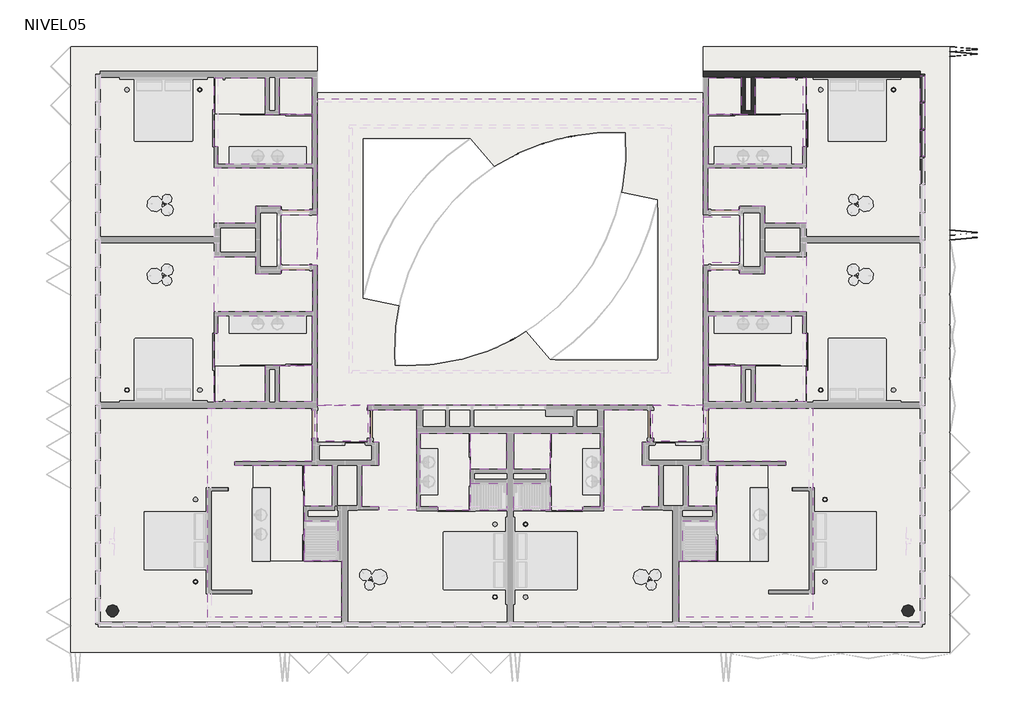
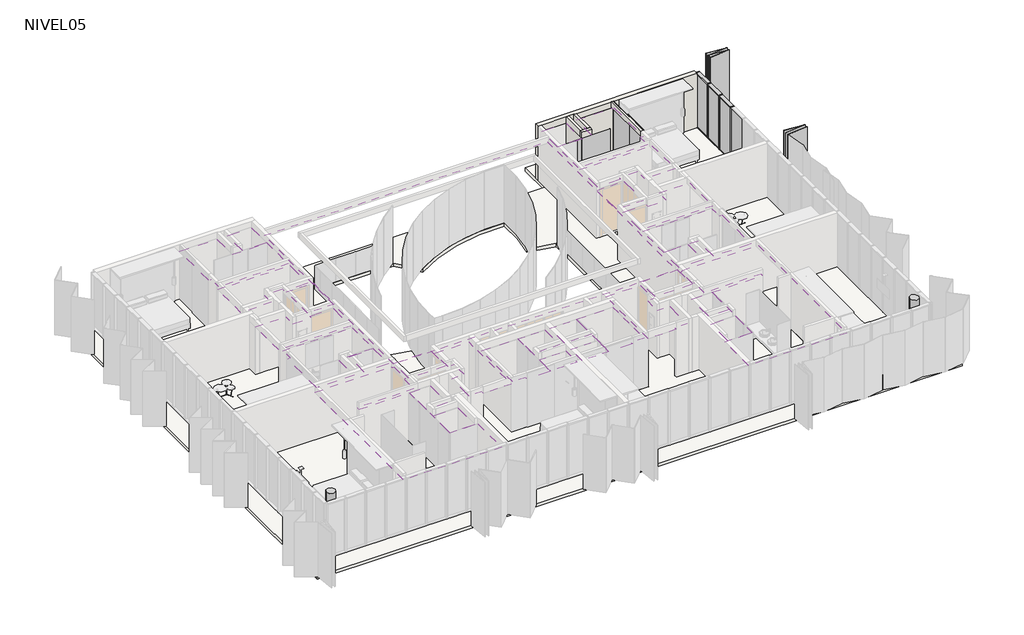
# One storey, part 7 of 8: 31 coverings, 17 slabs, 11 members, 8 plates, 8 walls, 6 beams, 2 columns.
"""IFC4 building model written with IfcOpenShell, lengths in millimetres."""

from ifc_helpers import new_model, si_unit, point, frame, frame_2d, origin, place, context, project, spatial, polyline, circle_curve, trimmed, segment, composite_curve, outline, extrude, faceted_brep, transform, mapped, element, save
from components import m_round_column_d_400_5789d155, m_round_column_d_400_e30c7a5e, rectangular_mullion_50_x_150mm_8dc60d6a, rectangular_mullion_50_x_150mm_324a6438, rectangular_mullion_50_x_150mm_33c2bde1, rectangular_mullion_50_x_150mm_da4cfd0d, folding_hd_folding_hd_85_1d048bdd, panel_corredera_cr_panel_corredera_0b5135b5, system_panel_cr_shower_c0953742, system_panel_cr_shower_d0c7b907, system_panel_glazed_6ccc6dc1, system_panel_glazed_38744f95

model = new_model("IFC4")

# Units and contexts
model_context = context("Model", 3, world=origin())
ifc_project = project(units=[si_unit("LENGTHUNIT", "METRE", prefix="MILLI")], contexts=[model_context])

# Site, building, storey
site = spatial("IfcSite", under=ifc_project)
building = spatial("IfcBuilding", under=site)
storey = spatial("IfcBuildingStorey", under=building, Name="NIVEL05", Elevation=10660.0)

# Beams
placement = place(None, origin())
element("IfcBeam", 1, ObjectType="H-A- VIGAS RECTANGULARES : V. 40/30", at=placement, inside=storey, context=model_context, shape_type="Brep", body=[
    faceted_brep([(5611.4065252, -7185.2015033, 10640.0), (5611.4065252, -7185.2015033, 10340.0), (6011.4065252, -7185.2015033, 10340.0), (6011.4065252, -7185.2015033, 10640.0), (6011.4065252, -166.0860759, 10640.0), (5611.4065252, -166.0860759, 10640.0), (5611.4065252, -6785.2015033, 10640.0), (6011.4065252, -166.0860759, 10340.0), (5611.4065252, -6785.2015033, 10340.0), (5611.4065252, -166.0860759, 10340.0)], [[[0, 1, 2, 3]], [[3, 4, 5, 6, 0]], [[2, 7, 4, 3]], [[1, 8, 9, 7, 2]], [[0, 6, 5, 9, 8, 1]], [[5, 4, 7, 9]]]),
])
element("IfcBeam", 2, ObjectType="H-A- VIGAS RECTANGULARES : V. 40/30", at=placement, inside=storey, context=model_context, shape_type="SweptSolid", body=[
    extrude(outline(polyline([(-1773.5934748, -7185.2015033), (-1773.5934748, -6785.2015033), (5611.4065252, -6785.2015033), (5611.4065252, -7185.2015033), (-1773.5934748, -7185.2015033)])), frame((0.0, 0.0, 10340.0), z_axis=(0.0, 0.0, 1.0), x_axis=(1.0, 0.0, 0.0)), (0.0, 0.0, 1.0), 300.0),
])
element("IfcBeam", 3, ObjectType="H-A- VIGAS RECTANGULARES : V. 40/30", at=placement, inside=storey, context=model_context, shape_type="Brep", body=[
    faceted_brep([(-19978.5934748, -7185.2015033, 10640.0), (-20378.5934748, -7185.2015033, 10640.0), (-20378.5934748, -7185.2015033, 10340.0), (-19978.5934748, -7185.2015033, 10340.0), (-19978.5934748, -6785.2015033, 10640.0), (-19978.5934748, -166.0860759, 10640.0), (-20378.5934748, -166.0860759, 10640.0), (-20378.5934748, -166.0860759, 10340.0), (-19978.5934748, -166.0860759, 10340.0), (-19978.5934748, -6785.2015033, 10340.0)], [[[0, 1, 2, 3]], [[1, 0, 4, 5, 6]], [[2, 1, 6, 7]], [[3, 2, 7, 8, 9]], [[0, 3, 9, 8, 5, 4]], [[5, 8, 7, 6]]]),
])
element("IfcBeam", 4, ObjectType="H-A- VIGAS RECTANGULARES : V. 40/30", at=placement, inside=storey, context=model_context, shape_type="SweptSolid", body=[
    extrude(outline(polyline([(-12593.5934748, -6785.2015033), (-12593.5934748, -7185.2015033), (-19978.5934748, -7185.2015033), (-19978.5934748, -6785.2015033), (-12593.5934748, -6785.2015033)])), frame((0.0, 0.0, 10340.0), z_axis=(0.0, 0.0, 1.0), x_axis=(1.0, 0.0, 0.0)), (0.0, 0.0, 1.0), 300.0),
])
element("IfcBeam", 5, ObjectType="H-A- VIGAS RECTANGULARES : V. 40/30", at=placement, inside=storey, context=model_context, shape_type="SweptSolid", body=[
    extrude(outline(polyline([(-1773.5934748, -7185.2015033), (-7283.5934748, -7185.2015033), (-7283.5934748, -6785.2015033), (-1773.5934748, -6785.2015033), (-1773.5934748, -7185.2015033)])), frame((0.0, 0.0, 10340.0), z_axis=(0.0, 0.0, 1.0), x_axis=(1.0, 0.0, 0.0)), (0.0, 0.0, 1.0), 300.0),
])
element("IfcBeam", 6, ObjectType="H-A- VIGAS RECTANGULARES : V. 40/30", at=placement, inside=storey, context=model_context, shape_type="SweptSolid", body=[
    extrude(outline(polyline([(-12593.5934748, -7185.2015033), (-12593.5934748, -6785.2015033), (-7283.5934748, -6785.2015033), (-7283.5934748, -7185.2015033), (-12593.5934748, -7185.2015033)])), frame((0.0, 0.0, 10340.0), z_axis=(0.0, 0.0, 1.0), x_axis=(1.0, 0.0, 0.0)), (0.0, 0.0, 1.0), 300.0),
])

# Columns
m_round_column_d_400_shape = m_round_column_d_400_5789d155(model_context)
element("IfcColumn", 7, ObjectType="M_Round Column : D-400", at=placement, inside=storey, context=model_context, shape_type="MappedRepresentation", body=[
    mapped(m_round_column_d_400_shape, transform((5797.2643895, -6971.0593676, 0.0), x_axis=(-1.0, 0.0, 0.0), y_axis=(0.0, -1.0, 0.0), z_axis=(0.0, 0.0, 1.0))),
])
m_round_column_d_400_2_shape = m_round_column_d_400_e30c7a5e(model_context)
element("IfcColumn", 8, ObjectType="M_Round Column : D-400", at=placement, inside=storey, context=model_context, shape_type="MappedRepresentation", body=[
    mapped(m_round_column_d_400_2_shape, transform((-20164.4513392, -6971.0593676, 0.0), x_axis=(1.0, 0.0, 0.0), y_axis=(0.0, 1.0, 0.0), z_axis=(0.0, 0.0, 1.0))),
])

# Coverings
element("IfcCovering", 9, ObjectType="CI_VOLCANITA-ST", at=placement, inside=storey, context=model_context, shape_type="SweptSolid", body=[
    extrude(outline(polyline([(-16848.5934748, 10423.9139241), (-15183.5934748, 10423.9139241), (-15183.5934748, 9233.9139241), (-13643.5934748, 9233.9139241), (-13643.5934748, 7603.9139241), (-16728.5934748, 7603.9139241), (-16728.5934748, 8173.9139241), (-16848.5934748, 8173.9139241), (-16848.5934748, 10423.9139241)])), frame((0.0, 0.0, 12910.0), z_axis=(0.0, 0.0, 1.0), x_axis=(1.0, 0.0, 0.0)), (0.0, 0.0, 1.0), 55.0),
])
element("IfcCovering", 10, ObjectType="CI_VOLCANITA-RH", at=placement, inside=storey, context=model_context, shape_type="SweptSolid", body=[
    extrude(outline(polyline([(-14723.5934748, 10423.9139241), (-13643.5934748, 10423.9139241), (-13643.5934748, 9233.9139241), (-14723.5934748, 9233.9139241), (-14723.5934748, 10423.9139241)])), frame((0.0, 0.0, 12910.0), z_axis=(0.0, 0.0, 1.0), x_axis=(1.0, 0.0, 0.0)), (0.0, 0.0, 1.0), 55.0),
])
element("IfcCovering", 11, ObjectType="CI_VOLCANITA-ST", at=placement, inside=storey, context=model_context, shape_type="SweptSolid", body=[
    extrude(outline(polyline([(2686.4065252, -7185.2015033), (-1683.5934748, -7185.2015033), (-1683.5934748, -5336.0862189), (-453.5934748, -5336.0862189), (-453.5934748, -2216.0860759), (1806.4065252, -2216.0860759), (1806.4065252, -2098.0860759), (-723.5934748, -2098.0860759), (-723.5934748, -1341.0860759), (-798.5934748, -1341.0860759), (-798.5934748, -426.0860759), (-723.5934748, -426.0860759), (-723.5934748, -366.0860759), (2686.4065252, -366.0860759), (2686.4065252, -7185.2015033)])), frame((0.0, 0.0, 12910.0), z_axis=(0.0, 0.0, 1.0), x_axis=(1.0, 0.0, 0.0)), (0.0, 0.0, 1.0), 55.0),
])
element("IfcCovering", 12, ObjectType="CI_VOLCANITA-RH", at=placement, inside=storey, context=model_context, shape_type="SweptSolid", body=[
    extrude(outline(polyline([(-1373.5934748, -3556.0862189), (-1373.5934748, -2226.0860759), (-453.5434748, -2226.0860759), (-453.5434748, -3556.0862189), (-1373.5934748, -3556.0862189)])), frame((0.0, 0.0, 12910.0), z_axis=(0.0, 0.0, 1.0), x_axis=(1.0, 0.0, 0.0)), (0.0, 0.0, 1.0), 55.0),
])
element("IfcCovering", 13, ObjectType="CI_VOLCANITA-RH", at=placement, inside=storey, context=model_context, shape_type="SweptSolid", body=[
    extrude(outline(polyline([(-1553.5934748, -4036.0862189), (-453.5434748, -4036.0862189), (-453.5434748, -5336.1362189), (-1553.5934748, -5336.1362189), (-1553.5934748, -4036.0862189)])), frame((0.0, 0.0, 12910.0), z_axis=(0.0, 0.0, 1.0), x_axis=(1.0, 0.0, 0.0)), (0.0, 0.0, 1.0), 55.0),
])
element("IfcCovering", 14, ObjectType="CI_VOLCANITA-ST", at=placement, inside=storey, context=model_context, shape_type="SweptSolid", body=[
    extrude(outline(polyline([(-17053.5934748, -7185.2015033), (-17053.5934748, -366.0860759), (-13643.5934748, -366.0860759), (-13643.5934748, -426.0860759), (-13568.5934748, -426.0860759), (-13568.5934748, -1341.0860759), (-13643.5934748, -1341.0860759), (-13643.5934748, -2098.0860759), (-16173.5934748, -2098.0860759), (-16173.5934748, -2216.0860759), (-13913.5934748, -2216.0860759), (-13913.5934748, -5336.0862189), (-12683.5934748, -5336.0862189), (-12683.5934748, -7185.2015033), (-17053.5934748, -7185.2015033)])), frame((0.0, 0.0, 12910.0), z_axis=(0.0, 0.0, 1.0), x_axis=(1.0, 0.0, 0.0)), (0.0, 0.0, 1.0), 55.0),
])
element("IfcCovering", 15, ObjectType="CI_VOLCANITA-RH", at=placement, inside=storey, context=model_context, shape_type="SweptSolid", body=[
    extrude(outline(polyline([(-12993.5934748, -3556.0862189), (-13913.6434748, -3556.0862189), (-13913.6434748, -2226.0860759), (-12993.5934748, -2226.0860759), (-12993.5934748, -3556.0862189)])), frame((0.0, 0.0, 12910.0), z_axis=(0.0, 0.0, 1.0), x_axis=(1.0, 0.0, 0.0)), (0.0, 0.0, 1.0), 55.0),
])
element("IfcCovering", 16, ObjectType="CI_VOLCANITA-RH", at=placement, inside=storey, context=model_context, shape_type="SweptSolid", body=[
    extrude(outline(polyline([(-12813.5934748, -4036.0862189), (-12813.5934748, -5336.1362189), (-13913.6434748, -5336.1362189), (-13913.6434748, -4036.0862189), (-12813.5934748, -4036.0862189)])), frame((0.0, 0.0, 12910.0), z_axis=(0.0, 0.0, 1.0), x_axis=(1.0, 0.0, 0.0)), (0.0, 0.0, 1.0), 55.0),
])
element("IfcCovering", 17, ObjectType="CI_VOLCANITA-ST", at=placement, inside=storey, context=model_context, shape_type="SweptSolid", body=[
    extrude(outline(polyline([(-5883.5921504, -1176.0860759), (-4253.5934748, -1176.0860759), (-4253.5934748, -3586.0862189), (-4823.5934748, -3586.0862189), (-4823.5934748, -3686.0862189), (-5883.5921504, -3686.0862189), (-5883.5921504, -1176.0860759)])), frame((0.0, 0.0, 12910.0), z_axis=(0.0, 0.0, 1.0), x_axis=(1.0, 0.0, 0.0)), (0.0, 0.0, 1.0), 55.0),
])
element("IfcCovering", 18, ObjectType="CI_VOLCANITA-RH", at=placement, inside=storey, context=model_context, shape_type="SweptSolid", body=[
    extrude(outline(polyline([(-5883.5921504, -2346.0860759), (-7073.5934748, -2346.0860759), (-7073.5934748, -1176.0860759), (-5883.5921504, -1176.0860759), (-5883.5921504, -2346.0860759)])), frame((0.0, 0.0, 12910.0), z_axis=(0.0, 0.0, 1.0), x_axis=(1.0, 0.0, 0.0)), (0.0, 0.0, 1.0), 55.0),
])
element("IfcCovering", 19, ObjectType="CI_VOLCANITA-RH", at=placement, inside=storey, context=model_context, shape_type="SweptSolid", body=[
    extrude(outline(polyline([(-7073.5934748, -3686.0862189), (-7073.5934748, -2806.0860759), (-5883.5921504, -2806.0860759), (-5883.5921504, -3686.0862189), (-7073.5934748, -3686.0862189)])), frame((0.0, 0.0, 12910.0), z_axis=(0.0, 0.0, 1.0), x_axis=(1.0, 0.0, 0.0)), (0.0, 0.0, 1.0), 55.0),
])
element("IfcCovering", 20, ObjectType="CI_VOLCANITA-ST", at=placement, inside=storey, context=model_context, shape_type="SweptSolid", body=[
    extrude(outline(polyline([(-8483.5947993, -1176.0860759), (-8483.5947993, -3686.0862189), (-9543.5934748, -3686.0862189), (-9543.5934748, -3586.0862189), (-10113.5934748, -3586.0862189), (-10113.5934748, -1176.0860759), (-8483.5947993, -1176.0860759)])), frame((0.0, 0.0, 12910.0), z_axis=(0.0, 0.0, 1.0), x_axis=(1.0, 0.0, 0.0)), (0.0, 0.0, 1.0), 55.0),
])
element("IfcCovering", 21, ObjectType="CI_VOLCANITA-RH", at=placement, inside=storey, context=model_context, shape_type="SweptSolid", body=[
    extrude(outline(polyline([(-8483.5947993, -2346.0860759), (-8483.5947993, -1176.0860759), (-7293.5934748, -1176.0860759), (-7293.5934748, -2346.0860759), (-8483.5947993, -2346.0860759)])), frame((0.0, 0.0, 12910.0), z_axis=(0.0, 0.0, 1.0), x_axis=(1.0, 0.0, 0.0)), (0.0, 0.0, 1.0), 55.0),
])
element("IfcCovering", 22, ObjectType="CI_VOLCANITA-RH", at=placement, inside=storey, context=model_context, shape_type="Brep", body=[
    faceted_brep([(-7293.5934748, -3686.0862189, 12965.0), (-7293.5934748, -3566.0862189, 12965.0), (-7293.5934748, -2806.0860759, 12965.0), (-8483.5947993, -2806.0860759, 12965.0), (-8483.5947993, -3566.0862189, 12965.0), (-8483.5947993, -3686.0862189, 12965.0), (-7293.5934748, -3686.0862189, 12910.0), (-8483.5947993, -3686.0862189, 12910.0), (-8483.5947993, -3566.0862189, 12910.0), (-8483.5947993, -2806.0860759, 12910.0), (-7293.5934748, -2806.0860759, 12910.0), (-7293.5934748, -3566.0862189, 12910.0)], [[[0, 1, 2, 3, 4, 5]], [[6, 7, 8, 9, 10, 11]], [[2, 1, 0, 6, 11, 10]], [[3, 2, 10, 9]], [[5, 4, 3, 9, 8, 7]], [[0, 5, 7, 6]]]),
])
element("IfcCovering", 23, ObjectType="CI_VOLCANITA-ST", at=placement, inside=storey, context=model_context, shape_type="SweptSolid", body=[
    extrude(outline(polyline([(-13483.5934748, 9733.9139241), (-883.5934748, 9733.9139241), (-883.5934748, -266.0860759), (-13483.5934748, -266.0860759), (-13483.5934748, 9733.9139241)]), holes=[polyline([(-12333.5934748, 8783.9139241), (-12333.5934748, 883.9139241), (-2033.5934748, 883.9139241), (-2033.5934748, 8783.9139241), (-12333.5934748, 8783.9139241)])]), frame((0.0, 0.0, 12910.0), z_axis=(0.0, 0.0, 1.0), x_axis=(1.0, 0.0, 0.0)), (0.0, 0.0, 1.0), 55.0),
])
element("IfcCovering", 24, ObjectType="CI_HUNTER DOUGLAS", at=placement, inside=storey, context=model_context, shape_type="SweptSolid", body=[
    extrude(outline(polyline([(306.4065252, 5883.9139241), (306.4065252, 4383.9139241), (-883.5934748, 4383.9139241), (-883.5934748, 5883.9139241), (306.4065252, 5883.9139241)])), frame((0.0, 0.0, 12960.0), z_axis=(0.0, 0.0, 1.0), x_axis=(1.0, 0.0, 0.0)), (0.0, 0.0, 1.0), 55.0),
])
element("IfcCovering", 25, ObjectType="CI_HUNTER DOUGLAS", at=placement, inside=storey, context=model_context, shape_type="SweptSolid", body=[
    extrude(outline(polyline([(-883.5934748, -266.0860759), (-883.5934748, -1438.0860759), (-2533.5934748, -1438.0860759), (-2533.5934748, -266.0860759), (-883.5934748, -266.0860759)])), frame((0.0, 0.0, 12960.0), z_axis=(0.0, 0.0, 1.0), x_axis=(1.0, 0.0, 0.0)), (0.0, 0.0, 1.0), 55.0),
])
element("IfcCovering", 26, ObjectType="CI_HUNTER DOUGLAS", at=placement, inside=storey, context=model_context, shape_type="SweptSolid", body=[
    extrude(outline(polyline([(-14673.5934748, 5958.9139241), (-13483.5934748, 5958.9139241), (-13483.5934748, 4308.9139241), (-14673.5934748, 4308.9139241), (-14673.5934748, 5958.9139241)])), frame((0.0, 0.0, 12960.0), z_axis=(0.0, 0.0, 1.0), x_axis=(1.0, 0.0, 0.0)), (0.0, 0.0, 1.0), 55.0),
])
element("IfcCovering", 27, ObjectType="CI_HUNTER DOUGLAS", at=placement, inside=storey, context=model_context, shape_type="SweptSolid", body=[
    extrude(outline(polyline([(-11833.5934748, -266.0860759), (-11833.5934748, -1438.0860759), (-13483.5934748, -1438.0860759), (-13483.5934748, -266.0860759), (-11833.5934748, -266.0860759)])), frame((0.0, 0.0, 12960.0), z_axis=(0.0, 0.0, 1.0), x_axis=(1.0, 0.0, 0.0)), (0.0, 0.0, 1.0), 55.0),
])
element("IfcCovering", 28, ObjectType="CI_VOLCANITA-ST", at=placement, inside=storey, context=model_context, shape_type="SweptSolid", body=[
    extrude(outline(polyline([(-16848.5934748, 5683.9139241), (-16848.5934748, 7483.9139241), (-13633.5934748, 7483.9139241), (-13633.5934748, 6108.9139241), (-14673.5934748, 6108.9139241), (-14673.5934748, 6233.9139241), (-15493.5934748, 6233.9139241), (-15493.5934748, 5683.9139241), (-16848.5934748, 5683.9139241)])), frame((0.0, 0.0, 12910.0), z_axis=(0.0, 0.0, 1.0), x_axis=(1.0, 0.0, 0.0)), (0.0, 0.0, 1.0), 55.0),
])
element("IfcCovering", 29, ObjectType="CI_VOLCANITA-ST", at=placement, inside=storey, context=model_context, shape_type="SweptSolid", body=[
    extrude(outline(polyline([(-2608.5934748, -416.0860759), (-2608.5934748, -1466.0860759), (-2883.5934748, -1466.0860759), (-2883.5934748, -2216.0860759), (-2333.5934748, -2216.0860759), (-2333.5934748, -3571.0862189), (-2883.5934748, -3571.0862189), (-2883.5934748, -3686.0862189), (-4133.5934748, -3686.0862189), (-4133.5934748, -1066.0860759), (-4133.5934748, -416.0860759), (-2608.5934748, -416.0860759)])), frame((0.0, 0.0, 12910.0), z_axis=(0.0, 0.0, 1.0), x_axis=(1.0, 0.0, 0.0)), (0.0, 0.0, 1.0), 55.0),
])
element("IfcCovering", 30, ObjectType="CI_VOLCANITA-ST", at=placement, inside=storey, context=model_context, shape_type="SweptSolid", body=[
    extrude(outline(polyline([(-10233.5934748, -416.0860759), (-10233.5934748, -1066.0860759), (-10233.5934748, -3686.0862189), (-11483.5934748, -3686.0862189), (-11483.5934748, -3571.0862189), (-12033.5934748, -3571.0862189), (-12033.5934748, -2216.0860759), (-11483.5934748, -2216.0860759), (-11483.5934748, -1466.0860759), (-11758.5934748, -1466.0860759), (-11758.5934748, -416.0860759), (-10233.5934748, -416.0860759)])), frame((0.0, 0.0, 12910.0), z_axis=(0.0, 0.0, 1.0), x_axis=(1.0, 0.0, 0.0)), (0.0, 0.0, 1.0), 55.0),
])
element("IfcCovering", 31, ObjectType="CI_VOLCANITA-ST", at=placement, inside=storey, context=model_context, shape_type="Brep", body=[
    faceted_brep([(2481.4065252, 10423.9139241, 12965.0), (2371.4065252, 10423.9139241, 12965.0), (816.4065252, 10423.9139241, 12965.0), (816.4065252, 9233.9139241, 12965.0), (-723.5934748, 9233.9139241, 12965.0), (-723.5934748, 7603.9139241, 12965.0), (2361.4065252, 7603.9139241, 12965.0), (2361.4065252, 8173.9139241, 12965.0), (2371.4065252, 8173.9139241, 12965.0), (2481.4065252, 8173.9139241, 12965.0), (2481.4065252, 10423.9139241, 12910.0), (2481.4065252, 8173.9139241, 12910.0), (2361.4065252, 8173.9139241, 12910.0), (2361.4065252, 7603.9139241, 12910.0), (-723.5934748, 7603.9139241, 12910.0), (-723.5934748, 9233.9139241, 12910.0), (816.4065252, 9233.9139241, 12910.0), (816.4065252, 10423.9139241, 12910.0), (2371.4065252, 10423.9139241, 12910.0)], [[[0, 1, 2, 3, 4, 5, 6, 7, 8, 9]], [[10, 11, 12, 13, 14, 15, 16, 17, 18]], [[2, 1, 0, 10, 18, 17]], [[3, 2, 17, 16]], [[4, 3, 16, 15]], [[5, 4, 15, 14]], [[6, 5, 14, 13]], [[7, 6, 13, 12]], [[9, 8, 7, 12, 11]], [[0, 9, 11, 10]]]),
])
element("IfcCovering", 32, ObjectType="CI_VOLCANITA-RH", at=placement, inside=storey, context=model_context, shape_type="SweptSolid", body=[
    extrude(outline(polyline([(356.4065252, 10423.9139241), (356.4065252, 9233.9139241), (-723.5934748, 9233.9139241), (-723.5934748, 10423.9139241), (356.4065252, 10423.9139241)])), frame((0.0, 0.0, 12910.0), z_axis=(0.0, 0.0, 1.0), x_axis=(1.0, 0.0, 0.0)), (0.0, 0.0, 1.0), 55.0),
])
element("IfcCovering", 33, ObjectType="CI_VOLCANITA-ST", at=placement, inside=storey, context=model_context, shape_type="Brep", body=[
    faceted_brep([(-16848.5934748, -156.0860759, 12965.0), (-16738.5934748, -156.0860759, 12965.0), (-15183.5934748, -156.0860759, 12965.0), (-15183.5934748, 1033.9139241, 12965.0), (-13643.5934748, 1033.9139241, 12965.0), (-13643.5934748, 2663.9139241, 12965.0), (-16728.5934748, 2663.9139241, 12965.0), (-16728.5934748, 2093.9139241, 12965.0), (-16738.5934748, 2093.9139241, 12965.0), (-16848.5934748, 2093.9139241, 12965.0), (-16848.5934748, -156.0860759, 12910.0), (-16848.5934748, 2093.9139241, 12910.0), (-16728.5934748, 2093.9139241, 12910.0), (-16728.5934748, 2663.9139241, 12910.0), (-13643.5934748, 2663.9139241, 12910.0), (-13643.5934748, 1033.9139241, 12910.0), (-15183.5934748, 1033.9139241, 12910.0), (-15183.5934748, -156.0860759, 12910.0), (-16738.5934748, -156.0860759, 12910.0)], [[[0, 1, 2, 3, 4, 5, 6, 7, 8, 9]], [[10, 11, 12, 13, 14, 15, 16, 17, 18]], [[2, 1, 0, 10, 18, 17]], [[3, 2, 17, 16]], [[4, 3, 16, 15]], [[5, 4, 15, 14]], [[6, 5, 14, 13]], [[7, 6, 13, 12]], [[9, 8, 7, 12, 11]], [[0, 9, 11, 10]]]),
])
element("IfcCovering", 34, ObjectType="CI_VOLCANITA-RH", at=placement, inside=storey, context=model_context, shape_type="SweptSolid", body=[
    extrude(outline(polyline([(-14723.5934748, -156.0860759), (-14723.5934748, 1033.9139241), (-13643.5934748, 1033.9139241), (-13643.5934748, -156.0860759), (-14723.5934748, -156.0860759)])), frame((0.0, 0.0, 12910.0), z_axis=(0.0, 0.0, 1.0), x_axis=(1.0, 0.0, 0.0)), (0.0, 0.0, 1.0), 55.0),
])
element("IfcCovering", 35, ObjectType="CI_VOLCANITA-ST", at=placement, inside=storey, context=model_context, shape_type="Brep", body=[
    faceted_brep([(2481.4065252, -156.0860759, 12965.0), (2481.4065252, 2093.9139241, 12965.0), (2371.4065252, 2093.9139241, 12965.0), (2361.4065252, 2093.9139241, 12965.0), (2361.4065252, 2663.9139241, 12965.0), (-723.5934748, 2663.9139241, 12965.0), (-723.5934748, 1033.9139241, 12965.0), (816.4065252, 1033.9139241, 12965.0), (816.4065252, -156.0860759, 12965.0), (2371.4065252, -156.0860759, 12965.0), (2481.4065252, -156.0860759, 12910.0), (2371.4065252, -156.0860759, 12910.0), (816.4065252, -156.0860759, 12910.0), (816.4065252, 1033.9139241, 12910.0), (-723.5934748, 1033.9139241, 12910.0), (-723.5934748, 2663.9139241, 12910.0), (2361.4065252, 2663.9139241, 12910.0), (2361.4065252, 2093.9139241, 12910.0), (2481.4065252, 2093.9139241, 12910.0)], [[[0, 1, 2, 3, 4, 5, 6, 7, 8, 9]], [[10, 11, 12, 13, 14, 15, 16, 17, 18]], [[0, 9, 8, 12, 11, 10]], [[8, 7, 13, 12]], [[7, 6, 14, 13]], [[6, 5, 15, 14]], [[5, 4, 16, 15]], [[4, 3, 17, 16]], [[3, 2, 1, 18, 17]], [[1, 0, 10, 18]]]),
])
element("IfcCovering", 36, ObjectType="CI_VOLCANITA-RH", at=placement, inside=storey, context=model_context, shape_type="SweptSolid", body=[
    extrude(outline(polyline([(356.4065252, -156.0860759), (-723.5934748, -156.0860759), (-723.5934748, 1033.9139241), (356.4065252, 1033.9139241), (356.4065252, -156.0860759)])), frame((0.0, 0.0, 12910.0), z_axis=(0.0, 0.0, 1.0), x_axis=(1.0, 0.0, 0.0)), (0.0, 0.0, 1.0), 55.0),
])
element("IfcCovering", 37, ObjectType="CI_VOLCANITA-ST", at=placement, inside=storey, context=model_context, shape_type="SweptSolid", body=[
    extrude(outline(polyline([(2481.4065252, 5683.9139241), (1126.4065252, 5683.9139241), (1126.4065252, 6233.9139241), (306.4065252, 6233.9139241), (306.4065252, 6108.9139241), (-733.5934748, 6108.9139241), (-733.5934748, 7483.9139241), (2481.4065252, 7483.9139241), (2481.4065252, 5683.9139241)])), frame((0.0, 0.0, 12910.0), z_axis=(0.0, 0.0, 1.0), x_axis=(1.0, 0.0, 0.0)), (0.0, 0.0, 1.0), 55.0),
])
element("IfcCovering", 38, ObjectType="CI_VOLCANITA-ST", at=placement, inside=storey, context=model_context, shape_type="SweptSolid", body=[
    extrude(outline(polyline([(-16848.5934748, 4583.9139241), (-15493.5934748, 4583.9139241), (-15493.5934748, 4033.9139241), (-14673.5934748, 4033.9139241), (-14673.5934748, 4158.9139241), (-13633.5934748, 4158.9139241), (-13633.5934748, 2783.9139241), (-16848.5934748, 2783.9139241), (-16848.5934748, 4583.9139241)])), frame((0.0, 0.0, 12910.0), z_axis=(0.0, 0.0, 1.0), x_axis=(1.0, 0.0, 0.0)), (0.0, 0.0, 1.0), 55.0),
])
element("IfcCovering", 39, ObjectType="CI_VOLCANITA-ST", at=placement, inside=storey, context=model_context, shape_type="SweptSolid", body=[
    extrude(outline(polyline([(2481.4065252, 4583.9139241), (2481.4065252, 2783.9139241), (-733.5934748, 2783.9139241), (-733.5934748, 4158.9139241), (306.4065252, 4158.9139241), (306.4065252, 4033.9139241), (1126.4065252, 4033.9139241), (1126.4065252, 4583.9139241), (2481.4065252, 4583.9139241)])), frame((0.0, 0.0, 12910.0), z_axis=(0.0, 0.0, 1.0), x_axis=(1.0, 0.0, 0.0)), (0.0, 0.0, 1.0), 55.0),
])

# Members
rectangular_mullion_50_x_150mm_shape = rectangular_mullion_50_x_150mm_8dc60d6a(model_context)
element("IfcMember", 40, ObjectType="Rectangular Mullion : 50 x 150mm", at=placement, inside=storey, context=model_context, shape_type="MappedRepresentation", body=[
    mapped(rectangular_mullion_50_x_150mm_shape, transform((6266.4065252, 9658.9139237, 13210.0), x_axis=(0.0, 0.0, 1.0), y_axis=(-1.0, 0.0, 0.0), z_axis=(0.0, -1.0, 0.0))),
])
rectangular_mullion_50_x_150mm_2_shape = rectangular_mullion_50_x_150mm_324a6438(model_context)
element("IfcMember", 41, ObjectType="Rectangular Mullion : 50 x 150mm", at=placement, inside=storey, context=model_context, shape_type="MappedRepresentation", body=[
    mapped(rectangular_mullion_50_x_150mm_2_shape, transform((6266.4065252, 8758.9139237, 13210.0), x_axis=(0.0, 0.0, 1.0), y_axis=(-1.0, 0.0, 0.0), z_axis=(0.0, -1.0, 0.0))),
])
element("IfcMember", 42, ObjectType="Rectangular Mullion : 50 x 150mm", at=placement, inside=storey, context=model_context, shape_type="MappedRepresentation", body=[
    mapped(rectangular_mullion_50_x_150mm_2_shape, transform((6266.4065252, 7858.9139237, 13210.0), x_axis=(0.0, 0.0, 1.0), y_axis=(-1.0, 0.0, 0.0), z_axis=(0.0, -1.0, 0.0))),
])
element("IfcMember", 43, ObjectType="Rectangular Mullion : 50 x 150mm", at=placement, inside=storey, context=model_context, shape_type="MappedRepresentation", body=[
    mapped(rectangular_mullion_50_x_150mm_shape, transform((6266.4065252, 10483.9139241, 10640.0), x_axis=(0.0, 0.0, -1.0), y_axis=(-1.0, 0.0, 0.0), z_axis=(0.0, 1.0, 0.0))),
])
element("IfcMember", 44, ObjectType="Rectangular Mullion : 50 x 150mm", at=placement, inside=storey, context=model_context, shape_type="MappedRepresentation", body=[
    mapped(rectangular_mullion_50_x_150mm_2_shape, transform((6266.4065252, 9608.9139237, 10640.0), x_axis=(0.0, 0.0, -1.0), y_axis=(-1.0, 0.0, 0.0), z_axis=(0.0, 1.0, 0.0))),
])
element("IfcMember", 45, ObjectType="Rectangular Mullion : 50 x 150mm", at=placement, inside=storey, context=model_context, shape_type="MappedRepresentation", body=[
    mapped(rectangular_mullion_50_x_150mm_2_shape, transform((6266.4065252, 8708.9139237, 10640.0), x_axis=(0.0, 0.0, -1.0), y_axis=(-1.0, 0.0, 0.0), z_axis=(0.0, 1.0, 0.0))),
])
element("IfcMember", 46, ObjectType="Rectangular Mullion : 50 x 150mm", at=placement, inside=storey, context=model_context, shape_type="MappedRepresentation", body=[
    mapped(rectangular_mullion_50_x_150mm_2_shape, transform((6266.4065252, 7808.9139237, 10640.0), x_axis=(0.0, 0.0, -1.0), y_axis=(-1.0, 0.0, 0.0), z_axis=(0.0, 1.0, 0.0))),
])
rectangular_mullion_50_x_150mm_3_shape = rectangular_mullion_50_x_150mm_33c2bde1(model_context)
element("IfcMember", 47, ObjectType="Rectangular Mullion : 50 x 150mm", at=placement, inside=storey, context=model_context, shape_type="MappedRepresentation", body=[
    mapped(rectangular_mullion_50_x_150mm_3_shape, transform((6266.4065252, 9633.9139237, 10640.0), x_axis=(0.0, -1.0, 0.0), y_axis=(-1.0, 0.0, 0.0), z_axis=(0.0, 0.0, -1.0))),
])
element("IfcMember", 48, ObjectType="Rectangular Mullion : 50 x 150mm", at=placement, inside=storey, context=model_context, shape_type="MappedRepresentation", body=[
    mapped(rectangular_mullion_50_x_150mm_3_shape, transform((6266.4065252, 8733.9139237, 10640.0), x_axis=(0.0, -1.0, 0.0), y_axis=(-1.0, 0.0, 0.0), z_axis=(0.0, 0.0, -1.0))),
])
element("IfcMember", 49, ObjectType="Rectangular Mullion : 50 x 150mm", at=placement, inside=storey, context=model_context, shape_type="MappedRepresentation", body=[
    mapped(rectangular_mullion_50_x_150mm_3_shape, transform((6266.4065252, 7833.9139237, 10640.0), x_axis=(0.0, -1.0, 0.0), y_axis=(-1.0, 0.0, 0.0), z_axis=(0.0, 0.0, -1.0))),
])
rectangular_mullion_50_x_150mm_4_shape = rectangular_mullion_50_x_150mm_da4cfd0d(model_context)
element("IfcMember", 50, ObjectType="Rectangular Mullion : 50 x 150mm", at=placement, inside=storey, context=model_context, shape_type="MappedRepresentation", body=[
    mapped(rectangular_mullion_50_x_150mm_4_shape, transform((6266.4065252, 10533.9139241, 13210.0), x_axis=(0.0, 1.0, 0.0), y_axis=(-1.0, 0.0, 0.0), z_axis=(0.0, 0.0, 1.0))),
])

# Plates
folding_hd_folding_hd_85_shape = folding_hd_folding_hd_85_1d048bdd(model_context)
element("IfcPlate", 51, ObjectType="FOLDING HD : FOLDING HD 85", at=placement, inside=storey, context=model_context, shape_type="MappedRepresentation", body=[
    mapped(folding_hd_folding_hd_85_shape, transform((7166.4065252, 8283.9139241, 10640.0), x_axis=(0.0, -1.0, 0.0), y_axis=(1.0, 0.0, 0.0), z_axis=(0.0, 0.0, 1.0))),
])
panel_corredera_cr_panel_corredera_shape = panel_corredera_cr_panel_corredera_0b5135b5(model_context)
element("IfcPlate", 52, ObjectType="PANEL CORREDERA : CR_PANEL CORREDERA", at=placement, inside=storey, context=model_context, shape_type="MappedRepresentation", body=[
    mapped(panel_corredera_cr_panel_corredera_shape, transform((2481.4065252, 8703.9139241, 10660.0), x_axis=(0.0, 1.0, 0.0), y_axis=(-1.0, 0.0, 0.0), z_axis=(0.0, 0.0, 1.0))),
])
system_panel_cr_shower_shape = system_panel_cr_shower_c0953742(model_context)
element("IfcPlate", 53, ObjectType="System Panel : CR-SHOWER", at=placement, inside=storey, context=model_context, shape_type="MappedRepresentation", body=[
    mapped(system_panel_cr_shower_shape, transform((811.7398585, 9233.9139241, 10660.0), x_axis=(-1.0, 0.0, 0.0), y_axis=(0.0, -1.0, 0.0), z_axis=(0.0, 0.0, 1.0))),
])
system_panel_cr_shower_2_shape = system_panel_cr_shower_d0c7b907(model_context)
element("IfcPlate", 54, ObjectType="System Panel : CR-SHOWER", at=placement, inside=storey, context=model_context, shape_type="MappedRepresentation", body=[
    mapped(system_panel_cr_shower_2_shape, transform((2481.4065252, 9833.9139241, 10660.0), x_axis=(0.0, 1.0, 0.0), y_axis=(-1.0, 0.0, 0.0), z_axis=(0.0, 0.0, 1.0))),
])
system_panel_glazed_shape = system_panel_glazed_6ccc6dc1(model_context)
element("IfcPlate", 55, ObjectType="System Panel : Glazed", at=placement, inside=storey, context=model_context, shape_type="MappedRepresentation", body=[
    mapped(system_panel_glazed_shape, transform((6266.4065252, 9183.9139237, 10690.0), x_axis=(0.0, -1.0, 0.0), y_axis=(1.0, 0.0, 0.0), z_axis=(0.0, 0.0, 1.0))),
])
element("IfcPlate", 56, ObjectType="System Panel : Glazed", at=placement, inside=storey, context=model_context, shape_type="MappedRepresentation", body=[
    mapped(system_panel_glazed_shape, transform((6266.4065252, 8283.9139237, 10690.0), x_axis=(0.0, -1.0, 0.0), y_axis=(1.0, 0.0, 0.0), z_axis=(0.0, 0.0, 1.0))),
])
element("IfcPlate", 57, ObjectType="System Panel : Glazed", at=placement, inside=storey, context=model_context, shape_type="MappedRepresentation", body=[
    mapped(system_panel_glazed_shape, transform((6266.4065252, 7383.9139237, 10690.0), x_axis=(0.0, -1.0, 0.0), y_axis=(1.0, 0.0, 0.0), z_axis=(0.0, 0.0, 1.0))),
])
system_panel_glazed_2_shape = system_panel_glazed_38744f95(model_context)
element("IfcPlate", 58, ObjectType="System Panel : Glazed", at=placement, inside=storey, context=model_context, shape_type="MappedRepresentation", body=[
    mapped(system_panel_glazed_2_shape, transform((6266.4065252, 10071.4139239, 10690.0), x_axis=(0.0, -1.0, 0.0), y_axis=(1.0, 0.0, 0.0), z_axis=(0.0, 0.0, 1.0))),
])

# Slabs
element("IfcSlab", 59, ObjectType="PAV-PORCELANATO BAÑOS", at=placement, inside=storey, context=model_context, shape_type="SweptSolid", body=[
    extrude(outline(polyline([(-16848.5934748, 9233.9139241), (-14733.5934748, 9233.9139241), (-14733.5934748, 10433.9139241), (-13633.5934748, 10433.9139241), (-13633.5934748, 7593.9139241), (-16738.5934748, 7593.9139241), (-16738.5934748, 8173.9139241), (-16848.5934748, 8173.9139241), (-16848.5934748, 9233.9139241)])), frame((0.0, 0.0, 10640.0), z_axis=(0.0, 0.0, 1.0), x_axis=(1.0, 0.0, 0.0)), (0.0, 0.0, 1.0), 20.0),
])
element("IfcSlab", 60, ObjectType="PAV-PORCELANATO BAÑOS", at=placement, inside=storey, context=model_context, shape_type="SweptSolid", body=[
    extrude(outline(polyline([(-4243.5934748, -1166.0860759), (-4243.5934748, -3596.0862189), (-4823.5934748, -3596.0862189), (-4823.5934748, -3706.0862189), (-5883.5921504, -3706.0862189), (-5883.5921504, -2366.0860759), (-7083.5934748, -2366.0860759), (-7083.5934748, -1166.0860759), (-4243.5934748, -1166.0860759)])), frame((0.0, 0.0, 10640.0), z_axis=(0.0, 0.0, 1.0), x_axis=(1.0, 0.0, 0.0)), (0.0, 0.0, 1.0), 20.0),
])
element("IfcSlab", 61, ObjectType="PAV-PORCELANATO BAÑOS", at=placement, inside=storey, context=model_context, shape_type="SweptSolid", body=[
    extrude(outline(polyline([(-10123.5934748, -1166.0860759), (-7283.5934748, -1166.0860759), (-7283.5934748, -2366.0860759), (-8483.5947993, -2366.0860759), (-8483.5947993, -3706.0862189), (-9543.5934748, -3706.0862189), (-9543.5934748, -3596.0862189), (-10123.5934748, -3596.0862189), (-10123.5934748, -1166.0860759)])), frame((0.0, 0.0, 10640.0), z_axis=(0.0, 0.0, 1.0), x_axis=(1.0, 0.0, 0.0)), (0.0, 0.0, 1.0), 20.0),
])
element("IfcSlab", 62, ObjectType="PAV-PORCELANATO BAÑOS", at=placement, inside=storey, context=model_context, shape_type="SweptSolid", body=[
    extrude(outline(polyline([(-1383.5934748, -2216.0860759), (1226.4065252, -2216.0860759), (1226.4065252, -5348.5862189), (-453.5934748, -5348.5862189), (-453.5934748, -3596.0862189), (-1383.5934748, -3596.0862189), (-1383.5934748, -2216.0860759)])), frame((0.0, 0.0, 10640.0), z_axis=(0.0, 0.0, 1.0), x_axis=(1.0, 0.0, 0.0)), (0.0, 0.0, 1.0), 20.0),
])
element("IfcSlab", 63, ObjectType="PAV-PORCELANATO BAÑOS", at=placement, inside=storey, context=model_context, shape_type="SweptSolid", body=[
    extrude(outline(polyline([(-12983.5934748, -2216.0860759), (-12983.5934748, -3596.0862189), (-13913.5934748, -3596.0862189), (-13913.5934748, -5348.5862189), (-15593.5934748, -5348.5862189), (-15593.5934748, -2216.0860759), (-12983.5934748, -2216.0860759)])), frame((0.0, 0.0, 10640.0), z_axis=(0.0, 0.0, 1.0), x_axis=(1.0, 0.0, 0.0)), (0.0, 0.0, 1.0), 20.0),
])
element("IfcSlab", 64, ObjectType="PAV-PORCELANATO BAÑOS", at=placement, inside=storey, context=model_context, shape_type="SweptSolid", body=[
    extrude(outline(polyline([(2481.4065252, 9233.9139241), (2481.4065252, 8173.9139241), (2371.4065252, 8173.9139241), (2371.4065252, 7593.9139241), (-733.5934748, 7593.9139241), (-733.5934748, 10433.9139241), (366.4065252, 10433.9139241), (366.4065252, 9233.9139241), (2481.4065252, 9233.9139241)])), frame((0.0, 0.0, 10640.0), z_axis=(0.0, 0.0, 1.0), x_axis=(1.0, 0.0, 0.0)), (0.0, 0.0, 1.0), 20.0),
])
element("IfcSlab", 65, ObjectType="PAV-PORCELANATO BAÑOS", at=placement, inside=storey, context=model_context, shape_type="SweptSolid", body=[
    extrude(outline(polyline([(-16848.5934748, 1033.9139241), (-16848.5934748, 2093.9139241), (-16738.5934748, 2093.9139241), (-16738.5934748, 2673.9139241), (-13633.5934748, 2673.9139241), (-13633.5934748, -166.0860759), (-14733.5934748, -166.0860759), (-14733.5934748, 1033.9139241), (-16848.5934748, 1033.9139241)])), frame((0.0, 0.0, 10640.0), z_axis=(0.0, 0.0, 1.0), x_axis=(1.0, 0.0, 0.0)), (0.0, 0.0, 1.0), 20.0),
])
element("IfcSlab", 66, ObjectType="PAV-PORCELANATO BAÑOS", at=placement, inside=storey, context=model_context, shape_type="SweptSolid", body=[
    extrude(outline(polyline([(2481.4065252, 1033.9139241), (366.4065252, 1033.9139241), (366.4065252, -166.0860759), (-733.5934748, -166.0860759), (-733.5934748, 2673.9139241), (2371.4065252, 2673.9139241), (2371.4065252, 2093.9139241), (2481.4065252, 2093.9139241), (2481.4065252, 1033.9139241)])), frame((0.0, 0.0, 10640.0), z_axis=(0.0, 0.0, 1.0), x_axis=(1.0, 0.0, 0.0)), (0.0, 0.0, 1.0), 20.0),
])
element("IfcSlab", 67, ObjectType="LOSA-150mm", at=placement, inside=storey, context=model_context, shape_type="SweptSolid", body=[
    extrude(outline(polyline([(-13483.5934748, 11433.9139241), (-13483.5934748, 9933.9139241), (-883.5934748, 9933.9139241), (-883.5934748, 11433.9139241), (7166.4065252, 11433.9139241), (7166.4065252, -8316.0860759), (-21533.5934748, -8316.0860759), (-21533.5934748, 11433.9139241), (-13483.5934748, 11433.9139241)]), holes=[composite_curve([segment(polyline([(-11983.5934748, 8433.9139241), (-11983.5934748, 3230.5248672), (-10808.7040338, 2986.171001)]), True, "CONTINUOUS"), segment(trimmed(circle_curve(frame_2d((-3900.8956512, 1587.773315)), 7047.9310964), [point((-10808.7040338, 2986.171001))], [point((-10928.0704932, 1047.2675525))], True, "CARTESIAN"), True, "CONTINUOUS"), segment(trimmed(circle_curve(frame_2d((-10466.2912985, 8080.0545331)), 7047.9310964), [point((-10928.0704932, 1047.2675525))], [point((-6658.8976812, 2149.0270857))], True, "CARTESIAN"), True, "CONTINUOUS"), segment(polyline([(-6658.8976812, 2149.0270857), (-5883.5934748, 1233.9139241), (-2383.5934748, 1233.9139241), (-2383.5934748, 6437.3029809), (-3558.5568432, 6681.2917105)]), True, "CONTINUOUS"), segment(trimmed(circle_curve(frame_2d((-10466.2912985, 8080.0545331)), 7047.9310964), [point((-3558.5568432, 6681.2917105))], [point((-3439.1164565, 8620.5602956))], True, "CARTESIAN"), True, "CONTINUOUS"), segment(trimmed(circle_curve(frame_2d((-3900.8956512, 1587.773315)), 7047.9310964), [point((-3439.1164565, 8620.5602956))], [point((-7708.2892685, 7518.8007624))], True, "CARTESIAN"), True, "CONTINUOUS"), segment(polyline([(-7708.2892685, 7518.8007624), (-8483.5934748, 8433.9139241), (-11983.5934748, 8433.9139241)]), True, "CONTINUOUS")], self_intersect=False)]), frame((0.0, 0.0, 10490.0), z_axis=(0.0, 0.0, 1.0), x_axis=(1.0, 0.0, 0.0)), (0.0, 0.0, 1.0), 150.0),
])
element("IfcSlab", 68, ObjectType="PAV-MADERA", at=placement, inside=storey, context=model_context, shape_type="SweptSolid", body=[
    extrude(outline(polyline([(-16848.5934748, 10433.9139241), (-16848.5934748, 7483.9139241), (-13633.5934748, 7483.9139241), (-13633.5934748, 6108.9139241), (-13733.5934748, 6108.9139241), (-13733.5934748, 6033.9139241), (-14648.5934748, 6033.9139241), (-14648.5934748, 6233.9139241), (-15493.5934748, 6233.9139241), (-15493.5934748, 5683.9139241), (-16848.5934748, 5683.9139241), (-16848.5934748, 5233.9139241), (-20558.5934748, 5233.9139241), (-20558.5934748, 10433.9139241), (-16848.5934748, 10433.9139241)])), frame((0.0, 0.0, 10640.0), z_axis=(0.0, 0.0, 1.0), x_axis=(1.0, 0.0, 0.0)), (0.0, 0.0, 1.0), 20.0),
])
element("IfcSlab", 69, ObjectType="PAV-MADERA", at=placement, inside=storey, context=model_context, shape_type="SweptSolid", body=[
    extrude(outline(polyline([(-4133.5934748, -386.0860759), (-2683.5934748, -386.0860759), (-2683.5934748, -426.0860759), (-2608.5934748, -426.0860759), (-2608.5934748, -1341.0860759), (-2683.5934748, -1341.0860759), (-2683.5934748, -1466.0860759), (-2883.5934748, -1466.0860759), (-2883.5934748, -2216.0860759), (-2333.5934748, -2216.0860759), (-2333.5934748, -3571.0862189), (-2883.5934748, -3571.0862189), (-2883.5934748, -3686.0862189), (-1883.5934748, -3686.0862189), (-1883.5934748, -7341.0860759), (-7083.5934748, -7341.0860759), (-7083.5934748, -3706.0862189), (-4133.5934748, -3706.0862189), (-4133.5934748, -386.0860759)])), frame((0.0, 0.0, 10640.0), z_axis=(0.0, 0.0, 1.0), x_axis=(1.0, 0.0, 0.0)), (0.0, 0.0, 1.0), 20.0),
])
element("IfcSlab", 70, ObjectType="PAV-MADERA", at=placement, inside=storey, context=model_context, shape_type="SweptSolid", body=[
    extrude(outline(polyline([(-10233.5934748, -386.0860759), (-10233.5934748, -3706.0862189), (-7283.5934748, -3706.0862189), (-7283.5934748, -7341.0860759), (-12483.5934748, -7341.0860759), (-12483.5934748, -3686.0862189), (-11483.5934748, -3686.0862189), (-11483.5934748, -3571.0862189), (-12033.5934748, -3571.0862189), (-12033.5934748, -2216.0860759), (-11483.5934748, -2216.0860759), (-11483.5934748, -1466.0860759), (-11683.5934748, -1466.0860759), (-11683.5934748, -1341.0860759), (-11758.5934748, -1341.0860759), (-11758.5934748, -426.0860759), (-11683.5934748, -426.0860759), (-11683.5934748, -386.0860759), (-10233.5934748, -386.0860759)])), frame((0.0, 0.0, 10640.0), z_axis=(0.0, 0.0, 1.0), x_axis=(1.0, 0.0, 0.0)), (0.0, 0.0, 1.0), 20.0),
])
element("IfcSlab", 71, ObjectType="PAV-MADERA", at=placement, inside=storey, context=model_context, shape_type="SweptSolid", body=[
    extrude(outline(polyline([(6191.4065252, -366.0860759), (6191.4065252, -7341.0860759), (-1683.5934748, -7341.0860759), (-1683.5934748, -5348.5862189), (1226.4065252, -5348.5862189), (1226.4065252, -2216.0860759), (1806.4065252, -2216.0860759), (1806.4065252, -2106.0860759), (-723.5934748, -2106.0860759), (-723.5934748, -1341.0860759), (-798.5934748, -1341.0860759), (-798.5934748, -366.0860759), (6191.4065252, -366.0860759)]), holes=[polyline([(2686.4065252, -6411.0658633), (2686.4065252, -2951.0658633), (2026.4065252, -2951.0658633), (2026.4065252, -3061.0658633), (2576.4065252, -3061.0658633), (2576.4065252, -6301.0658633), (1257.7462079, -6301.0658633), (1257.7462079, -6411.0658633), (2686.4065252, -6411.0658633)])]), frame((0.0, 0.0, 10640.0), z_axis=(0.0, 0.0, 1.0), x_axis=(1.0, 0.0, 0.0)), (0.0, 0.0, 1.0), 20.0),
])
element("IfcSlab", 72, ObjectType="PAV-MADERA", at=placement, inside=storey, context=model_context, shape_type="SweptSolid", body=[
    extrude(outline(polyline([(-20558.5934748, -366.0860759), (-13568.5934748, -366.0860759), (-13568.5934748, -1341.0860759), (-13643.5934748, -1341.0860759), (-13643.5934748, -2106.0860759), (-16173.5934748, -2106.0860759), (-16173.5934748, -2216.0860759), (-15593.5934748, -2216.0860759), (-15593.5934748, -5348.5862189), (-12683.5934748, -5348.5862189), (-12683.5934748, -7341.0860759), (-20558.5934748, -7341.0860759), (-20558.5934748, -366.0860759)]), holes=[polyline([(-17053.5934748, -6411.0658633), (-15624.9331576, -6411.0658633), (-15624.9331576, -6301.0658633), (-16943.5934748, -6301.0658633), (-16943.5934748, -3061.0658633), (-16393.5934748, -3061.0658633), (-16393.5934748, -2951.0658633), (-17053.5934748, -2951.0658633), (-17053.5934748, -6411.0658633)])]), frame((0.0, 0.0, 10640.0), z_axis=(0.0, 0.0, 1.0), x_axis=(1.0, 0.0, 0.0)), (0.0, 0.0, 1.0), 20.0),
])
element("IfcSlab", 73, ObjectType="PAV-MADERA", at=placement, inside=storey, context=model_context, shape_type="SweptSolid", body=[
    extrude(outline(polyline([(2481.4065252, 10433.9139241), (6191.4065252, 10433.9139241), (6191.4065252, 5233.9139241), (2481.4065252, 5233.9139241), (2481.4065252, 5683.9139241), (1126.4065252, 5683.9139241), (1126.4065252, 6233.9139241), (281.4065252, 6233.9139241), (281.4065252, 6033.9139241), (-633.5934748, 6033.9139241), (-633.5934748, 6108.9139241), (-733.5934748, 6108.9139241), (-733.5934748, 7483.9139241), (2481.4065252, 7483.9139241), (2481.4065252, 10433.9139241)])), frame((0.0, 0.0, 10640.0), z_axis=(0.0, 0.0, 1.0), x_axis=(1.0, 0.0, 0.0)), (0.0, 0.0, 1.0), 20.0),
])
element("IfcSlab", 74, ObjectType="PAV-MADERA", at=placement, inside=storey, context=model_context, shape_type="SweptSolid", body=[
    extrude(outline(polyline([(-16848.5934748, -166.0860759), (-20558.5934748, -166.0860759), (-20558.5934748, 5033.9139241), (-16848.5934748, 5033.9139241), (-16848.5934748, 4583.9139241), (-15493.5934748, 4583.9139241), (-15493.5934748, 4033.9139241), (-14648.5934748, 4033.9139241), (-14648.5934748, 4233.9139241), (-13733.5934748, 4233.9139241), (-13733.5934748, 4158.9139241), (-13633.5934748, 4158.9139241), (-13633.5934748, 2783.9139241), (-16848.5934748, 2783.9139241), (-16848.5934748, -166.0860759)])), frame((0.0, 0.0, 10640.0), z_axis=(0.0, 0.0, 1.0), x_axis=(1.0, 0.0, 0.0)), (0.0, 0.0, 1.0), 20.0),
])
element("IfcSlab", 75, ObjectType="PAV-MADERA", at=placement, inside=storey, context=model_context, shape_type="SweptSolid", body=[
    extrude(outline(polyline([(2481.4065252, -166.0860759), (2481.4065252, 2783.9139241), (-733.5934748, 2783.9139241), (-733.5934748, 4158.9139241), (-633.5934748, 4158.9139241), (-633.5934748, 4233.9139241), (281.4065252, 4233.9139241), (281.4065252, 4033.9139241), (1126.4065252, 4033.9139241), (1126.4065252, 4583.9139241), (2481.4065252, 4583.9139241), (2481.4065252, 5033.9139241), (6191.4065252, 5033.9139241), (6191.4065252, -166.0860759), (2481.4065252, -166.0860759)])), frame((0.0, 0.0, 10640.0), z_axis=(0.0, 0.0, 1.0), x_axis=(1.0, 0.0, 0.0)), (0.0, 0.0, 1.0), 20.0),
])

# Walls
element("IfcWall", 76, ObjectType="SCV.TI.A.120.120.122.46.2", at=placement, inside=storey, context=model_context, shape_type="SweptSolid", body=[
    extrude(outline(polyline([(686.4065252, 9353.9139241), (686.4065252, 10433.9139241), (806.4065252, 10433.9139241), (806.4065252, 9353.9139241), (686.4065252, 9353.9139241)])), frame((0.0, 0.0, 10640.0), z_axis=(0.0, 0.0, 1.0), x_axis=(1.0, 0.0, 0.0)), (0.0, 0.0, 1.0), 2570.0),
])
element("IfcWall", 77, ObjectType="SCV.TI.A.120.120.122.46.2", at=placement, inside=storey, context=model_context, shape_type="Brep", body=[
    faceted_brep([(806.4065252, 9353.9139241, 10640.0), (686.4065252, 9353.9139241, 10640.0), (486.4065252, 9353.9139241, 10640.0), (366.4065252, 9353.9139241, 10640.0), (366.4065252, 9353.9139241, 13210.0), (486.4065252, 9353.9139241, 13210.0), (686.4065252, 9353.9139241, 13210.0), (806.4065252, 9353.9139241, 13210.0), (806.4065252, 9233.9139241, 10640.0), (806.4065252, 9233.9139241, 13210.0), (366.4065252, 9233.9139241, 13210.0), (366.4065252, 9233.9139241, 10640.0)], [[[0, 1, 2, 3, 4, 5, 6, 7]], [[8, 9, 10, 11]], [[3, 2, 1, 0, 8, 11]], [[7, 6, 5, 4, 10, 9]], [[4, 3, 11, 10]], [[0, 7, 9, 8]]]),
])
element("IfcWall", 78, ObjectType="SCV.TI.A.120.120.122.46.2", at=placement, inside=storey, context=model_context, shape_type="SweptSolid", body=[
    extrude(outline(polyline([(486.4065252, 10433.9139241), (486.4065252, 9353.9139241), (366.4065252, 9353.9139241), (366.4065252, 10433.9139241), (486.4065252, 10433.9139241)])), frame((0.0, 0.0, 10640.0), z_axis=(0.0, 0.0, 1.0), x_axis=(1.0, 0.0, 0.0)), (0.0, 0.0, 1.0), 2570.0),
])
element("IfcWall", 79, ObjectType="REV-PORCELANATO_60*60", at=placement, inside=storey, context=model_context, shape_type="SweptSolid", body=[
    extrude(outline(polyline([(366.4065252, 10423.9139241), (366.4065252, 9233.9139241), (356.4065252, 9233.9139241), (356.4065252, 10423.9139241), (366.4065252, 10423.9139241)])), frame((0.0, 0.0, 10680.0), z_axis=(0.0, 0.0, 1.0), x_axis=(1.0, 0.0, 0.0)), (0.0, 0.0, 1.0), 2240.0),
])
element("IfcWall", 80, ObjectType="REV-PORCELANATO_60*60", at=placement, inside=storey, context=model_context, shape_type="Brep", body=[
    faceted_brep([(816.4065252, 9233.9139241, 10660.0), (816.4065252, 10423.9139241, 10660.0), (816.4065252, 10433.9139241, 10660.0), (816.4065252, 10433.9139241, 12920.0), (816.4065252, 10423.9139241, 12920.0), (816.4065252, 9233.9139241, 12920.0), (806.4065252, 9233.9139241, 10660.0), (806.4065252, 9233.9139241, 12920.0), (806.4065252, 10433.9139241, 12920.0), (806.4065252, 10433.9139241, 10660.0)], [[[0, 1, 2, 3, 4, 5]], [[6, 7, 8, 9]], [[2, 1, 0, 6, 9]], [[5, 4, 3, 8, 7]], [[0, 5, 7, 6]], [[3, 2, 9, 8]]]),
])
element("IfcWall", 81, ObjectType="REV-PORCELANATO_60*60", at=placement, inside=storey, context=model_context, shape_type="SweptSolid", body=[
    extrude(outline(polyline([(2426.4065252, 10423.9139241), (816.4065252, 10423.9139241), (816.4065252, 10433.9139241), (2426.4065252, 10433.9139241), (2426.4065252, 10423.9139241)])), frame((0.0, 0.0, 10660.0), z_axis=(0.0, 0.0, 1.0), x_axis=(1.0, 0.0, 0.0)), (0.0, 0.0, 1.0), 2260.0),
])
element("IfcWall", 82, ObjectType="SCV.TI.A.110.090.143.47.1 2", at=placement, inside=storey, context=model_context, shape_type="SweptSolid", body=[
    extrude(outline(polyline([(8173.9139241, 13210.0), (10428.9139241, 13210.0), (10428.9139241, 12910.0), (10423.9139241, 12910.0), (10423.9139241, 12965.0), (8173.9139241, 12965.0), (8173.9139241, 13210.0)])), frame((2371.4065252, 0.0, 0.0), z_axis=(1.0, 0.0, 0.0), x_axis=(0.0, 1.0, 0.0)), (0.0, 0.0, 1.0), 110.0),
])
element("IfcWall", 83, ObjectType="HA-200mm", at=placement, inside=storey, context=model_context, shape_type="Brep", body=[
    faceted_brep([(6191.4065252, 10633.9139241, 10640.0), (-883.5934748, 10633.9139241, 10640.0), (-883.5934748, 10633.9139241, 13210.0), (6191.4065252, 10633.9139241, 13210.0), (6191.4065252, 10433.9139241, 10640.0), (6191.4065252, 10433.9139241, 13210.0), (806.4065252, 10433.9139241, 13210.0), (686.4065252, 10433.9139241, 13210.0), (486.4065252, 10433.9139241, 13210.0), (366.4065252, 10433.9139241, 13210.0), (-733.5934748, 10433.9139241, 13210.0), (-883.5934748, 10433.9139241, 13210.0), (-883.5934748, 10433.9139241, 10640.0), (-733.5934748, 10433.9139241, 10640.0), (366.4065252, 10433.9139241, 10640.0), (486.4065252, 10433.9139241, 10640.0), (686.4065252, 10433.9139241, 10640.0), (806.4065252, 10433.9139241, 10640.0)], [[[0, 1, 2, 3]], [[4, 5, 6, 7, 8, 9, 10, 11, 12, 13, 14, 15, 16, 17]], [[1, 0, 4, 17, 16, 15, 14, 13, 12]], [[3, 2, 11, 10, 9, 8, 7, 6, 5]], [[0, 3, 5, 4]], [[2, 1, 12, 11]]]),
])

save(model, "model.ifc")
